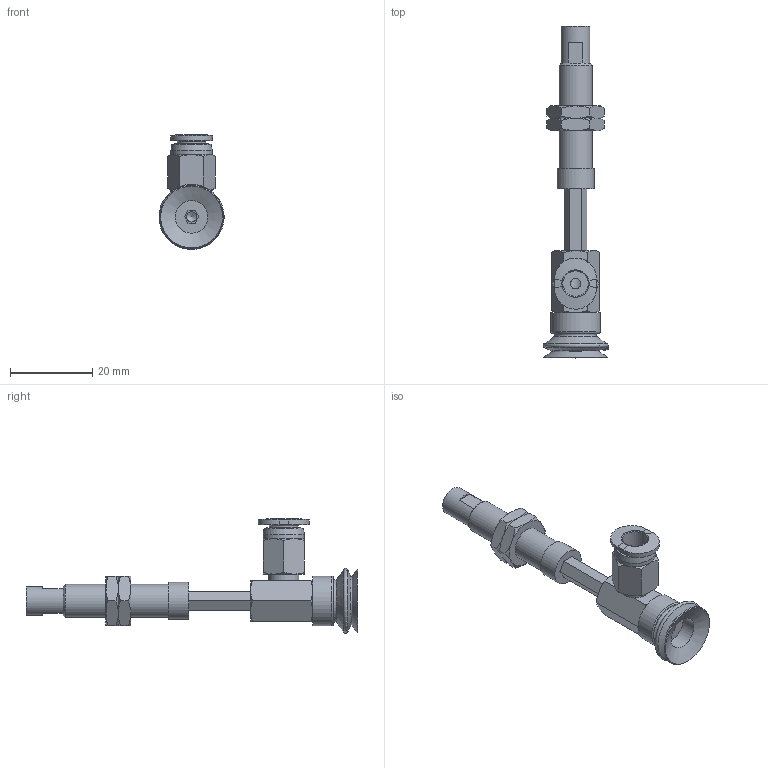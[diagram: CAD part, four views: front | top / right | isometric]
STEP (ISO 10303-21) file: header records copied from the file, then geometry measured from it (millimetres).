
FILE_DESCRIPTION(('STEP AP203'),'1');
FILE_NAME('-O.stp','2025-04-24T06:52:47',(' '),(' '),'Spatial InterOp 3D',' ',' ');
FILE_SCHEMA(('CONFIG_CONTROL_DESIGN'));
Length unit declared in the file: millimetre
Products named in the file (8): BNABPJYH-15-15-※-O; Adapter-15-NAPJ; CONNECTOR_H-15-15; NAPJH-15-15-NUT; NAPJTH-15-15-FBODY; NAPJTH-15-15-MBODY; BPJG-15-※; PC-C_06-M5
Assembly tree (8 placements, depth 2):
  BNABPJYH-15-15-※-O
    Adapter-15-NAPJ
    CONNECTOR_H-15-15
    NAPJH-15-15-NUT  x2
    NAPJTH-15-15-FBODY
    NAPJTH-15-15-MBODY
    BPJG-15-※
    PC-C_06-M5
Bounding box: 15.99 x 80.5 x 27.87 mm (x, y, z)
Volume: 4882.3 mm3; surface area: 6528.2 mm2
Topology: 7 solids, 10 shells, 215 faces, 464 edges, 280 vertices
Faces by surface type: plane 89, cone 74, cylinder 24, torus 11, bspline 10, sphere 4, revolution 3
Full cylindrical faces by diameter (mm): 2.5 x1, 4 x2, 4.134 x3, 4.6 x1, 5 x3, 7 x2, 7.188 x2, 7.4 x1, 7.9 x1, 8 x2, 8.2 x1, 9 x1, 10 x1, 12 x1
Entity records: 5910 total; most frequent: CARTESIAN_POINT 1742, DIRECTION 777, ORIENTED_EDGE 698, EDGE_CURVE 351, AXIS2_PLACEMENT_3D 326, EDGE_LOOP 269, VERTEX_POINT 241, FACE_OUTER_BOUND 162
